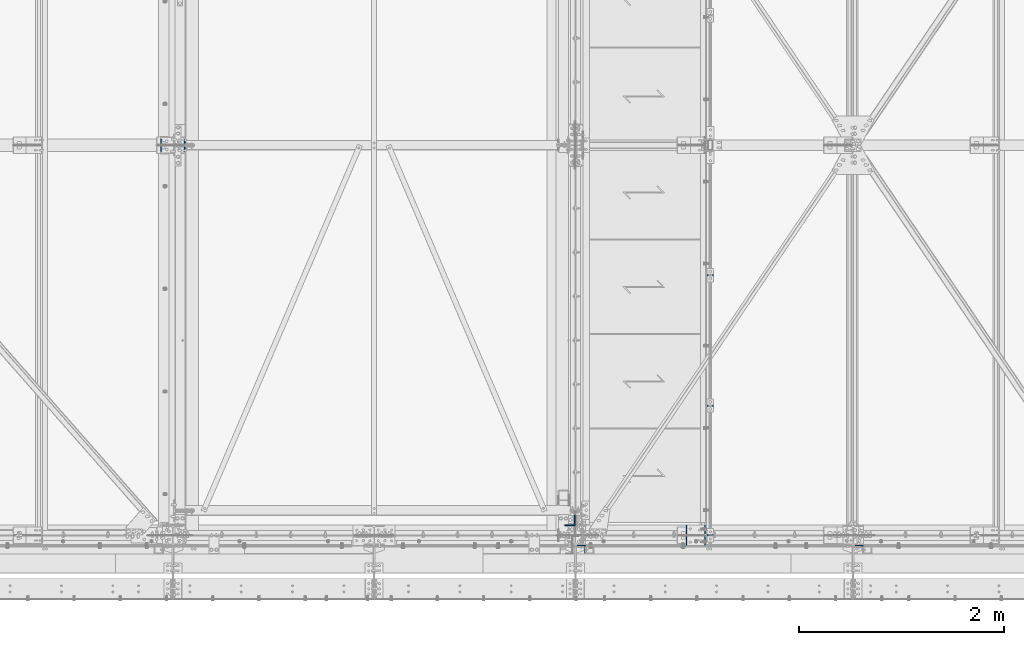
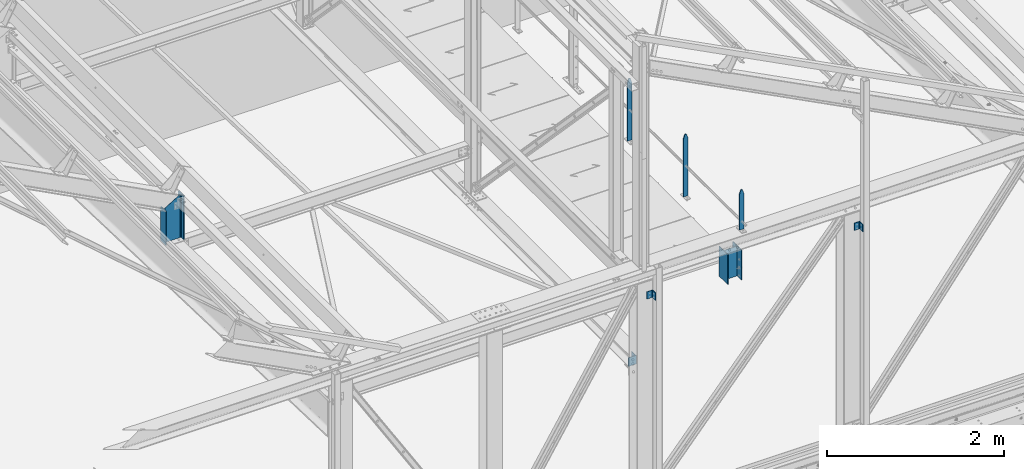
# One storey, part 28 of 362: 8 columns, 6 elements without a shape of their own.
"""IFC2X3 building model written with IfcOpenShell, lengths in millimetres."""

from ifc_helpers import new_model, si_unit, frame, origin_with_axes, origin_2d_with_axis, place, context, subcontext, project, spatial, rectangle, i_section, l_section, extrude, clip, halfspace, material, type_object, element, aggregate, save


model = new_model("IFC2X3")

# Units and contexts
model_context = context("Model", 3, precision=1e-05, world=origin_with_axes())
body_context = subcontext(model_context, "Body", "Model", "MODEL_VIEW")
ifc_project = project(units=[si_unit("LENGTHUNIT", "METRE", prefix="MILLI"), si_unit("AREAUNIT", "SQUARE_METRE"), si_unit("VOLUMEUNIT", "CUBIC_METRE"), si_unit("MASSUNIT", "GRAM", prefix="KILO"), si_unit("TIMEUNIT", "SECOND"), si_unit("PLANEANGLEUNIT", "RADIAN"), si_unit("SOLIDANGLEUNIT", "STERADIAN"), si_unit("THERMODYNAMICTEMPERATUREUNIT", "DEGREE_CELSIUS"), si_unit("LUMINOUSINTENSITYUNIT", "LUMEN")], contexts=[model_context])

# Site, building, storey
site_placement = place(None, origin_with_axes())
site = spatial("IfcSite", under=ifc_project, at=site_placement, Name="Undefined", CompositionType="ELEMENT")
building_placement = place(site_placement, origin_with_axes())
building = spatial("IfcBuilding", under=site, at=building_placement, Name="Undefined", CompositionType="ELEMENT")
storey_placement = place(building_placement, origin_with_axes())
storey = spatial("IfcBuildingStorey", under=building, at=storey_placement, Name="Undefined", CompositionType="ELEMENT", Elevation=0.0)

# Assembly, columns
assembly_1_placement = place(storey_placement, origin_with_axes())
assembly_1 = element("IfcElementAssembly", 1, at=assembly_1_placement, inside=storey, Name="MAIN COURANTE", AssemblyPlace="NOTDEFINED", PredefinedType="NOTDEFINED")
ifc_material_1 = material(Name="Undefined/S235-E24")
column_type_1 = type_object("IfcColumnType", Name="PL10*60", PredefinedType="NOTDEFINED")
column_1_placement = place(assembly_1_placement, frame((24783.9915986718, 0.0, 8560.00000822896), z_axis=(0.0, 0.0, 1.0), x_axis=(1.0, 0.0, 0.0)))
column_1 = element("IfcColumn", 2, at=column_1_placement, type_object=column_type_1, material=ifc_material_1, Name="MONTANT", ObjectType="PL10*60", context=body_context, shape_type="Clipping", body=[
    clip(clip(extrude(rectangle(XDim=10.0, YDim=60.0, at=origin_2d_with_axis()), frame((0.0, 0.0, 547.599997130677), z_axis=(0.0, 0.0, -1.0), x_axis=(0.0, 1.0, 0.0)), (0.0, 0.0, 1.0), 547.6), halfspace(frame((30.0000001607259, -4.99999971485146, 487.599997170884), z_axis=(0.948683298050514, 0.0, 0.316227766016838), x_axis=(-0.316227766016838, 0.0, 0.948683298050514)), False)), halfspace(frame((-29.9999998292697, 5.00000034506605, 487.599997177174), z_axis=(-0.948683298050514, 0.0, 0.316227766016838), x_axis=(0.316227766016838, 0.0, 0.948683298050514)), False)),
])
column_2_placement = place(assembly_1_placement, frame((24783.991598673, 1265.00343957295, 8250.00000822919), z_axis=(0.0, 0.0, 1.0), x_axis=(1.0, 0.0, 0.0)))
column_2 = element("IfcColumn", 3, at=column_2_placement, type_object=column_type_1, material=ifc_material_1, Name="MONTANT", ObjectType="PL10*60", context=body_context, shape_type="Clipping", body=[
    clip(clip(extrude(rectangle(XDim=10.0, YDim=60.0, at=origin_2d_with_axis()), frame((0.0, 0.0, 857.599997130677), z_axis=(0.0, 0.0, -1.0), x_axis=(0.0, 1.0, 0.0)), (0.0, 0.0, 1.0), 857.6), halfspace(frame((30.0000001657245, -5.000000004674, 797.599997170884), z_axis=(0.948683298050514, 0.0, 0.316227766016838), x_axis=(-0.316227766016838, 0.0, 0.948683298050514)), False)), halfspace(frame((-29.9999998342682, 4.99999999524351, 797.599997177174), z_axis=(-0.948683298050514, 0.0, 0.316227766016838), x_axis=(0.316227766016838, 0.0, 0.948683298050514)), False)),
])
column_3_placement = place(assembly_1_placement, frame((24783.9915997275, 2535.00343957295, 8250.00000735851), z_axis=(0.0, 0.0, 1.0), x_axis=(1.0, 0.0, 0.0)))
column_3 = element("IfcColumn", 4, at=column_3_placement, type_object=column_type_1, material=ifc_material_1, Name="MONTANT", ObjectType="PL10*60", context=body_context, shape_type="Clipping", body=[
    clip(clip(extrude(rectangle(XDim=10.0, YDim=60.0, at=origin_2d_with_axis()), frame((0.0, 0.0, 857.599997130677), z_axis=(0.0, 0.0, -1.0), x_axis=(0.0, 1.0, 0.0)), (0.0, 0.0, 1.0), 857.6), halfspace(frame((30.0000001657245, -5.000000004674, 797.599997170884), z_axis=(0.948683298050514, 0.0, 0.316227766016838), x_axis=(-0.316227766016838, 0.0, 0.948683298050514)), False)), halfspace(frame((-29.9999998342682, 4.99999999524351, 797.599997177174), z_axis=(-0.948683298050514, 0.0, 0.316227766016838), x_axis=(0.316227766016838, 0.0, 0.948683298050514)), False)),
])
aggregate(assembly_1, [column_1, column_2, column_3])

# Assembly, column
assembly_2_placement = place(storey_placement, origin_with_axes())
assembly_2 = element("IfcElementAssembly", 5, at=assembly_2_placement, inside=storey, AssemblyPlace="NOTDEFINED", PredefinedType="NOTDEFINED")
column_type_2 = type_object("IfcColumnType", Name="L80*8", PredefinedType="NOTDEFINED")
column_4_placement = place(assembly_2_placement, frame((26235.0061785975, -134.99999999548, 8110.00066228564), z_axis=(0.0, 0.0, 1.0), x_axis=(-1.0, 0.0, 0.0)))
column_4 = element("IfcColumn", 6, at=column_4_placement, type_object=column_type_2, material=ifc_material_1, Name="ATTACHE", ObjectType="L80*8", context=body_context, shape_type="SweptSolid", body=[
    extrude(l_section(Depth=80.0, Width=80.0, Thickness=8.0, FilletRadius=10.0, EdgeRadius=5.0, at=origin_2d_with_axis()), frame((0.0, 0.0, 100.0), z_axis=(0.0, 0.0, -1.0), x_axis=(0.0, 1.0, 0.0)), (0.0, 0.0, 1.0), 100.0),
])
aggregate(assembly_2, [column_4])

assembly_3_placement = place(storey_placement, origin_with_axes())
assembly_3 = element("IfcElementAssembly", 7, at=assembly_3_placement, inside=storey, AssemblyPlace="NOTDEFINED", PredefinedType="NOTDEFINED")
column_5_placement = place(assembly_3_placement, frame((23530.0061785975, -134.999999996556, 8110.0006622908), z_axis=(0.0, 0.0, 1.0), x_axis=(-1.0, 0.0, 0.0)))
column_5 = element("IfcColumn", 8, at=column_5_placement, type_object=column_type_2, material=ifc_material_1, Name="ATTACHE", ObjectType="L80*8", context=body_context, shape_type="SweptSolid", body=[
    extrude(l_section(Depth=80.0, Width=80.0, Thickness=8.0, FilletRadius=10.0, EdgeRadius=5.0, at=origin_2d_with_axis()), frame((0.0, 0.0, 100.0), z_axis=(0.0, 0.0, -1.0), x_axis=(0.0, 1.0, 0.0)), (0.0, 0.0, 1.0), 100.0),
])
aggregate(assembly_3, [column_5])

assembly_4_placement = place(storey_placement, origin_with_axes())
assembly_4 = element("IfcElementAssembly", 9, at=assembly_4_placement, inside=storey, AssemblyPlace="NOTDEFINED", PredefinedType="NOTDEFINED")
column_type_3 = type_object("IfcColumnType", Name="L100*10", PredefinedType="NOTDEFINED")
column_6_placement = place(assembly_4_placement, frame((23416.5000000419, 145.002294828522, 7104.49999757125), z_axis=(0.0, 0.0, 1.0), x_axis=(0.0, 1.0, 0.0)))
column_6 = element("IfcColumn", 10, at=column_6_placement, type_object=column_type_3, material=ifc_material_1, Name="ATTACHE", ObjectType="L100*10", context=body_context, shape_type="SweptSolid", body=[
    extrude(l_section(Depth=100.0, Width=100.0, Thickness=10.0, FilletRadius=12.0, EdgeRadius=6.0, at=origin_2d_with_axis()), frame((0.0, 0.0, 120.0), z_axis=(0.0, 0.0, -1.0), x_axis=(0.0, 1.0, 0.0)), (0.0, 0.0, 1.0), 120.0),
])
aggregate(assembly_4, [column_6])

assembly_5_placement = place(storey_placement, origin_with_axes())
assembly_5 = element("IfcElementAssembly", 11, at=assembly_5_placement, inside=storey, Name="MONTANT", AssemblyPlace="NOTDEFINED", PredefinedType="NOTDEFINED")
ifc_material_2 = material(Name="Undefined/S275-E28")
column_type_4 = type_object("IfcColumnType", Name="HEA200", PredefinedType="NOTDEFINED")
column_7_placement = place(assembly_5_placement, frame((24641.4916009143, 0.0, 7940.0), z_axis=(0.0, 0.0, 1.0), x_axis=(-1.0, 0.0, 0.0)))
column_7 = element("IfcColumn", 12, at=column_7_placement, type_object=column_type_4, material=ifc_material_2, Name="MONTANT", ObjectType="HEA200", context=body_context, shape_type="SweptSolid", body=[
    extrude(i_section(OverallWidth=200.0, OverallDepth=190.0, WebThickness=6.5, FlangeThickness=10.0, FilletRadius=18.0, at=origin_2d_with_axis()), frame((0.0, 0.0, 409.994446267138), z_axis=(0.0, 0.0, -1.0), x_axis=(0.0, 1.0, 0.0)), (0.0, 0.0, 1.0), 409.99),
])
aggregate(assembly_5, [column_7])

assembly_6_placement = place(storey_placement, origin_with_axes())
assembly_6 = element("IfcElementAssembly", 13, at=assembly_6_placement, inside=storey, Name="TRAVERSE SHED", AssemblyPlace="NOTDEFINED", PredefinedType="NOTDEFINED")
column_type_5 = type_object("IfcColumnType", Name="IPE240", PredefinedType="NOTDEFINED")
column_8_placement = place(assembly_6_placement, frame((19550.0, 3800.0, 7930.58018928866), z_axis=(0.0, 0.0, 1.0), x_axis=(-1.0, 0.0, 0.0)))
column_8 = element("IfcColumn", 14, at=column_8_placement, type_object=column_type_5, material=ifc_material_2, Name="TRAVERSE SHED", ObjectType="IPE240", context=body_context, shape_type="Clipping", body=[
    clip(clip(extrude(i_section(OverallWidth=120.0, OverallDepth=240.0, WebThickness=6.199999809, FlangeThickness=9.800000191, FilletRadius=15.0, at=origin_2d_with_axis()), frame((0.0, 0.0, 622.050781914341), z_axis=(0.0, 0.0, -1.0), x_axis=(0.0, 1.0, 0.0)), (0.0, 0.0, 1.0), 687.33), halfspace(frame((-120.000000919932, 0.0, 619.419812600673), z_axis=(0.517914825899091, 0.0, 0.855432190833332), x_axis=(0.0, 1.0, 0.0)), False)), halfspace(frame((0.0, -74.9626762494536, 7.65054768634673), z_axis=(0.0, 0.031410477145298, -0.999506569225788), x_axis=(1.0, 0.0, 0.0)), False)),
])
aggregate(assembly_6, [column_8])

save(model, "model.ifc")
